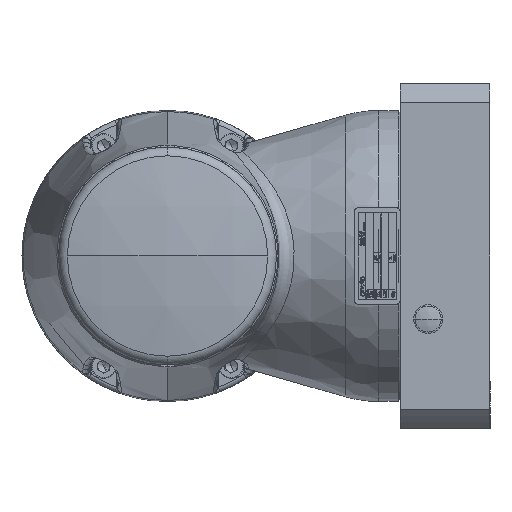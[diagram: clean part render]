
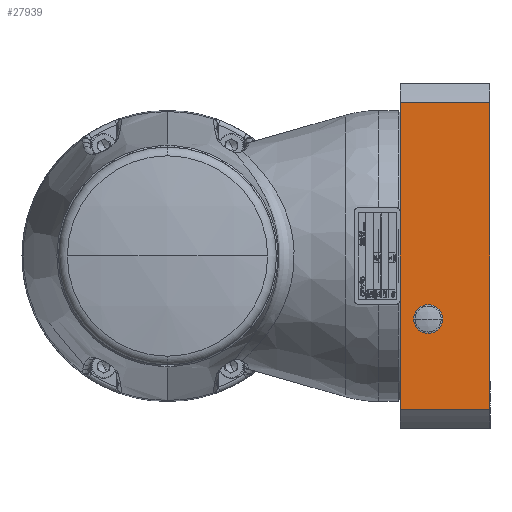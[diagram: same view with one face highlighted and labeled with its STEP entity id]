
A CAD part, left-side view. The second image highlights one B-rep face of the part: STEP entity #27939.
In plain terms, the highlighted planar face has unit normal (-1, 0, 0).
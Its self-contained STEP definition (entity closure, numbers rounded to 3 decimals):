
#37 = CARTESIAN_POINT ( 'NONE',  ( -71., -133., 63.119 ) ) ;
#1269 = DIRECTION ( 'NONE',  ( 0., 0., 1. ) ) ;
#1357 = VERTEX_POINT ( 'NONE', #30720 ) ;
#1697 = ORIENTED_EDGE ( 'NONE', *, *, #15281, .T. ) ;
#3195 = VECTOR ( 'NONE', #13788, 1000. ) ;
#3729 = VERTEX_POINT ( 'NONE', #10505 ) ;
#3886 = CARTESIAN_POINT ( 'NONE',  ( -71., -107.5, -26. ) ) ;
#4311 = ORIENTED_EDGE ( 'NONE', *, *, #27954, .F. ) ;
#4513 = CARTESIAN_POINT ( 'NONE',  ( -71., -107.5, -26. ) ) ;
#4526 = EDGE_CURVE ( 'NONE', #29585, #15886, #22064, .T. ) ;
#5051 = EDGE_CURVE ( 'NONE', #15886, #1357, #30897, .T. ) ;
#5311 = CARTESIAN_POINT ( 'NONE',  ( -71., -133., 71. ) ) ;
#5573 = VERTEX_POINT ( 'NONE', #22685 ) ;
#5595 = CARTESIAN_POINT ( 'NONE',  ( -71., -133., -63.119 ) ) ;
#6015 = AXIS2_PLACEMENT_3D ( 'NONE', #3886, #9433, #1269 ) ;
#6640 = CARTESIAN_POINT ( 'NONE',  ( -71., -96., 71. ) ) ;
#7097 = FACE_BOUND ( 'NONE', #19721, .T. ) ;
#7469 = PLANE ( 'NONE',  #15932 ) ;
#9114 = VECTOR ( 'NONE', #33625, 1000. ) ;
#9276 = DIRECTION ( 'NONE',  ( 0., -1., 0. ) ) ;
#9433 = DIRECTION ( 'NONE',  ( -1., 0., 0. ) ) ;
#9869 = CARTESIAN_POINT ( 'NONE',  ( -71., -96., 71. ) ) ;
#10505 = CARTESIAN_POINT ( 'NONE',  ( -71., -107.5, -31.35 ) ) ;
#10542 = CIRCLE ( 'NONE', #21270, 5.35 ) ;
#10666 = CARTESIAN_POINT ( 'NONE',  ( -71., -107.5, -20.65 ) ) ;
#10711 = ORIENTED_EDGE ( 'NONE', *, *, #21413, .F. ) ;
#12255 = CARTESIAN_POINT ( 'NONE',  ( -71., -133.001, -63.119 ) ) ;
#12876 = DIRECTION ( 'NONE',  ( -1., 0., 0. ) ) ;
#13788 = DIRECTION ( 'NONE',  ( 0., 1., 0. ) ) ;
#14256 = VERTEX_POINT ( 'NONE', #10666 ) ;
#15281 = EDGE_CURVE ( 'NONE', #5573, #29585, #17889, .T. ) ;
#15883 = DIRECTION ( 'NONE',  ( 1., 0., 0. ) ) ;
#15886 = VERTEX_POINT ( 'NONE', #37 ) ;
#15932 = AXIS2_PLACEMENT_3D ( 'NONE', #9869, #15883, #18480 ) ;
#17059 = ORIENTED_EDGE ( 'NONE', *, *, #34066, .F. ) ;
#17498 = VECTOR ( 'NONE', #9276, 1000. ) ;
#17889 = LINE ( 'NONE', #12255, #17498 ) ;
#18480 = DIRECTION ( 'NONE',  ( 0., 0., -1. ) ) ;
#19721 = EDGE_LOOP ( 'NONE', ( #4311, #10711 ) ) ;
#21128 = EDGE_LOOP ( 'NONE', ( #21258, #17059, #1697, #33809 ) ) ;
#21258 = ORIENTED_EDGE ( 'NONE', *, *, #5051, .T. ) ;
#21270 = AXIS2_PLACEMENT_3D ( 'NONE', #4513, #12876, #21802 ) ;
#21413 = EDGE_CURVE ( 'NONE', #3729, #14256, #22094, .T. ) ;
#21802 = DIRECTION ( 'NONE',  ( 0., 0., 1. ) ) ;
#22064 = LINE ( 'NONE', #5311, #9114 ) ;
#22094 = CIRCLE ( 'NONE', #6015, 5.35 ) ;
#22685 = CARTESIAN_POINT ( 'NONE',  ( -71., -96., -63.119 ) ) ;
#26381 = DIRECTION ( 'NONE',  ( 0., 0., 1. ) ) ;
#27211 = FACE_OUTER_BOUND ( 'NONE', #21128, .T. ) ;
#27939 = ADVANCED_FACE ( 'NONE', ( #27211, #7097 ), #7469, .F. ) ;
#27954 = EDGE_CURVE ( 'NONE', #14256, #3729, #10542, .T. ) ;
#29375 = LINE ( 'NONE', #6640, #32443 ) ;
#29585 = VERTEX_POINT ( 'NONE', #5595 ) ;
#30720 = CARTESIAN_POINT ( 'NONE',  ( -71., -96., 63.119 ) ) ;
#30897 = LINE ( 'NONE', #33713, #3195 ) ;
#32443 = VECTOR ( 'NONE', #26381, 1000. ) ;
#33625 = DIRECTION ( 'NONE',  ( 0., 0., 1. ) ) ;
#33713 = CARTESIAN_POINT ( 'NONE',  ( -71., -133.001, 63.119 ) ) ;
#33809 = ORIENTED_EDGE ( 'NONE', *, *, #4526, .T. ) ;
#34066 = EDGE_CURVE ( 'NONE', #5573, #1357, #29375, .T. ) ;
